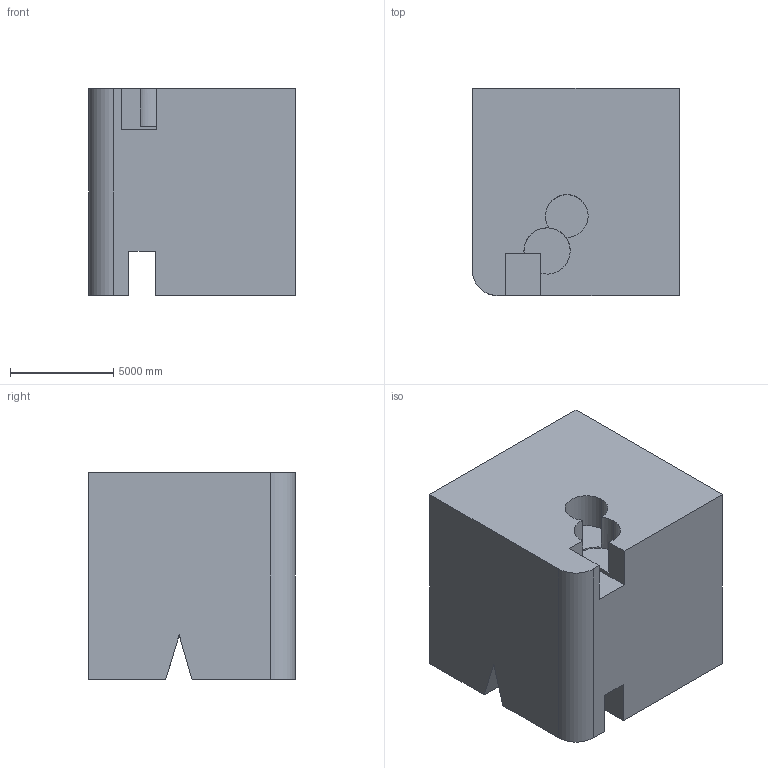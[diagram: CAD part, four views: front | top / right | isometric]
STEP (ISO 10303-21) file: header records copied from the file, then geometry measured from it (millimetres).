
FILE_DESCRIPTION (( 'STEP AP203' ), '1' );
FILE_NAME ('813.STEP', '2022-08-04T15:55:36', ( 'user' ), ( '' ), 'SwSTEP 2.0', 'SolidWorks 2021', '' );
FILE_SCHEMA (( 'CONFIG_CONTROL_DESIGN' ));
Length unit declared in the file: centimetre
Products named in the file (1): 813
Bounding box: 10000 x 10000 x 10000 mm (x, y, z)
Volume: 901442548893.9 mm3; surface area: 735655539.2 mm2
Topology: 1 solids, 1 shells, 43 faces, 117 edges, 78 vertices
Faces by surface type: plane 30, cylinder 13
Entity records: 1437 total; most frequent: CARTESIAN_POINT 242, ORIENTED_EDGE 234, DIRECTION 233, EDGE_CURVE 117, VECTOR 87, LINE 87, VERTEX_POINT 78, AXIS2_PLACEMENT_3D 73
